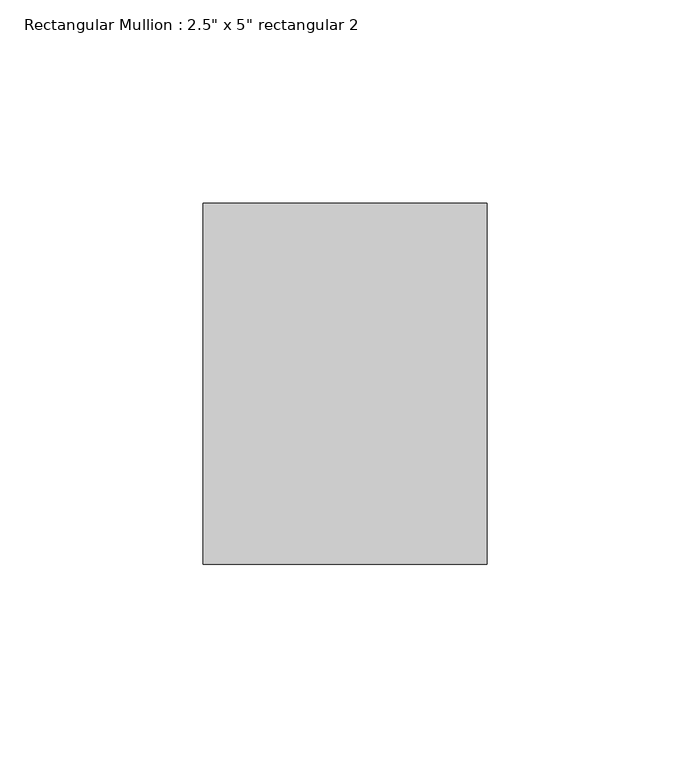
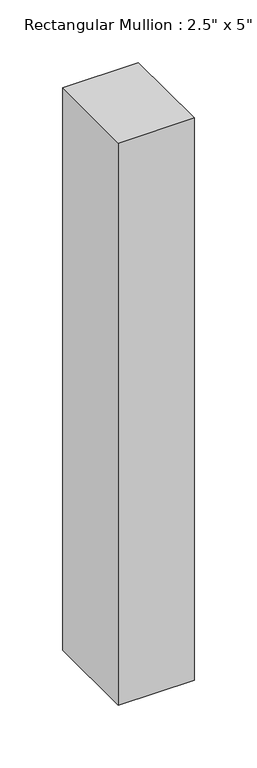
"""IFC4 building model written with IfcOpenShell, lengths in millimetres: member geometry."""

from ifc_helpers import new_model, si_unit, frame, origin, place, context, project, spatial, polyline, outline, extrude, source, transform, mapped, element, save


def member_b95b39b1(model_context):
    return source(origin(), model_context, "Body", "SweptSolid", [
        extrude(outline(polyline([(0.0, 44.45), (0.0, -44.45), (-69.85, -44.45), (-69.85, 44.45), (0.0, 44.45)])), frame((0.0, 0.0, -547.7215561), z_axis=(0.0, 0.0, 1.0), x_axis=(1.0, 0.0, 0.0)), (0.0, 0.0, 1.0), 547.7215561),
    ])


if __name__ == "__main__":
    model = new_model("IFC4")
    model_context = context("Model", 3, world=origin())
    ifc_project = project(units=[si_unit("LENGTHUNIT", "METRE", prefix="MILLI")], contexts=[model_context])
    site = spatial("IfcSite", under=ifc_project)
    building = spatial("IfcBuilding", under=site)
    placement = place(None, origin())
    member_shape = member_b95b39b1(model_context)
    element("IfcMember", 1, ObjectType="Rectangular Mullion : 2.5\" x 5\" rectangular 2", at=placement, inside=building, context=model_context, shape_type="MappedRepresentation", body=[
        mapped(member_shape, transform((0.0, 0.0, 0.0), x_axis=(1.0, 0.0, 0.0), y_axis=(0.0, 1.0, 0.0), z_axis=(0.0, 0.0, 1.0))),
    ])
    save(model, "model.ifc")
